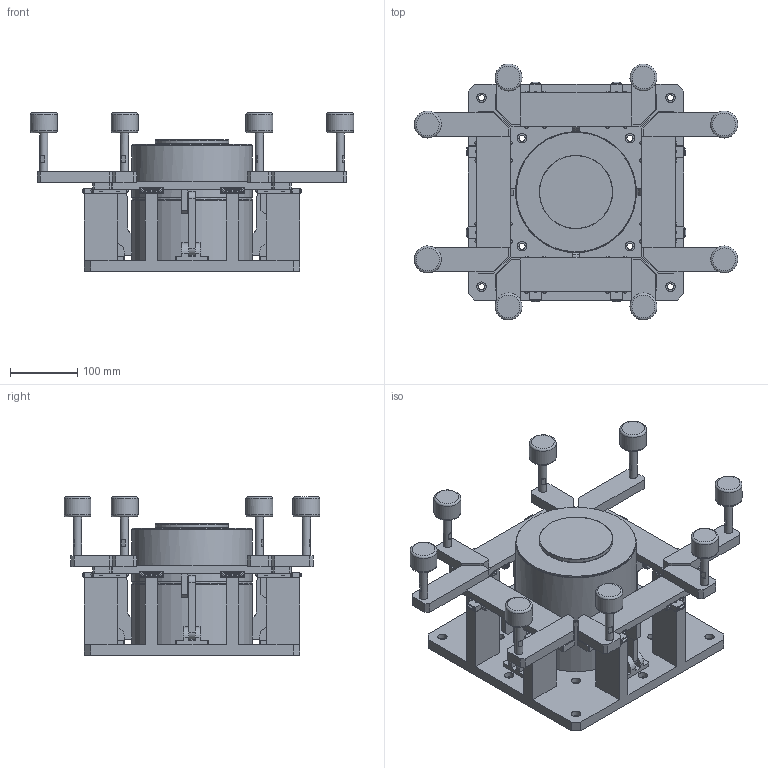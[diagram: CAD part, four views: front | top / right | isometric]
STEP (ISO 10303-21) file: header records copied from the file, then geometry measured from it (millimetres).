
FILE_DESCRIPTION(/* description */ (''),/* implementation_level */ '2;1');
FILE_NAME(/* name */ 'A:\업무자료\03. 개발\홍보자료제작\홈페이지(BKCI)\20181008 이전이력\첨부자료\STEP 파일\EF4A\EF4A DOWN.stp',/* time_stamp */ '2018-11-30T13:20:49+09:00',/* author */ ('idt-l'),/* organization */ (''),/* preprocessor_version */ 'ST-DEVELOPER v16.13',/* originating_system */ 'Autodesk Inventor 2018',/* authorisation */ '');
FILE_SCHEMA (('AUTOMOTIVE_DESIGN { 1 0 10303 214 3 1 1 }'));
Length unit declared in the file: millimetre
Products named in the file (1): EF4A DOWN
Bounding box: 479.39 x 379.4 x 235 mm (x, y, z)
Volume: 8361993.6 mm3; surface area: 764657.5 mm2
Topology: 1 solids, 33 shells, 1677 faces, 3903 edges, 2436 vertices
Faces by surface type: plane 1151, cylinder 462, cone 48, torus 16
Full cylindrical faces by diameter (mm): 2.459 x16, 3.242 x48, 4 x8, 4.917 x16, 6 x48, 8 x4, 9 x12, 10 x8, 12 x8, 14 x12, 40 x8, 108 x1, 109 x1, 177 x1, 178 x1, 179 x1, 179.2 x1
Entity records: 45467 total; most frequent: DIRECTION 7708, CARTESIAN_POINT 7570, ORIENTED_EDGE 7100, EDGE_CURVE 3550, LINE 2748, VECTOR 2748, AXIS2_PLACEMENT_3D 2480, VERTEX_POINT 2342
